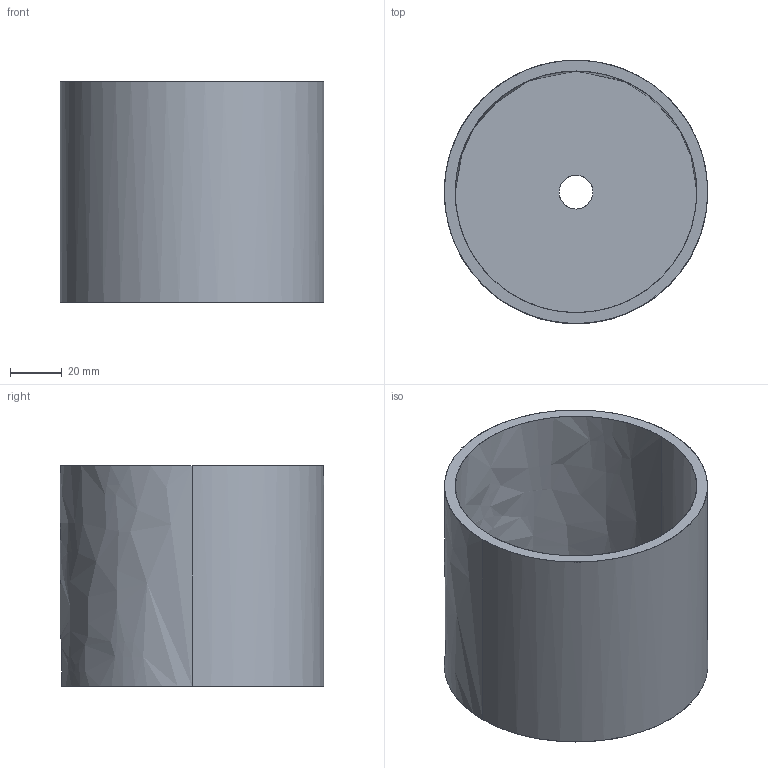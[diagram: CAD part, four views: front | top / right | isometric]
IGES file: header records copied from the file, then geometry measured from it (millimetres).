
Global section: file name: E:\UnigraphicsGraphicData\MISUMI_PRESS-PARTS\IGES\3d_phn70-85-r_07084_r00.igs; native system: NX V5.0; preprocessor: UGS NX IGES V5.0; author: MISUMI; date: 20110105.162252; units: millimetre
Bounding box: 101.6 x 101.6 x 85 mm (x, y, z)
Surface area: 68092 mm2 (no closed solid volume)
Topology: 0 solids, 0 shells, 15 faces, 178 edges, 178 vertices
Faces by surface type: bspline 15
